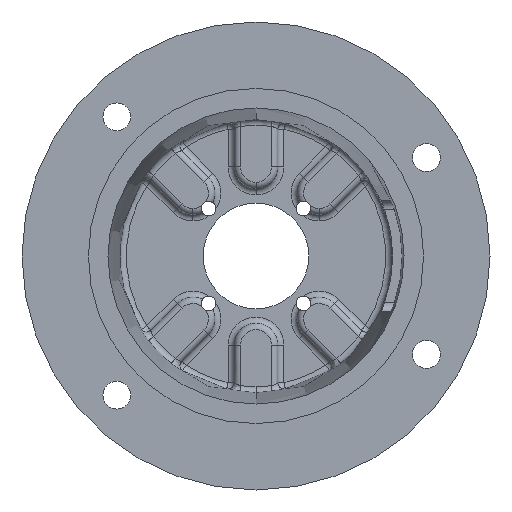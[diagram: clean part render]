
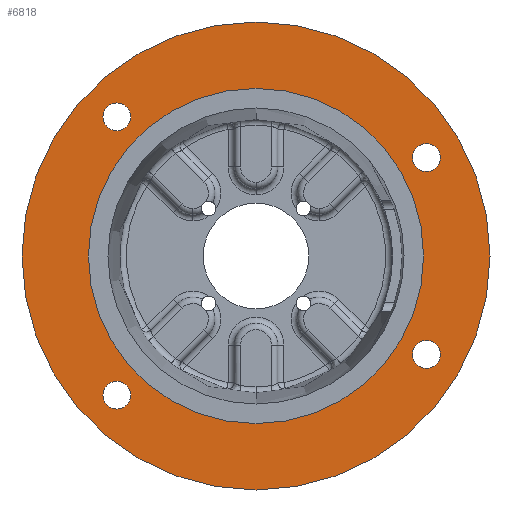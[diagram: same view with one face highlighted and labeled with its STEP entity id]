
A CAD part, front view. The second image highlights one B-rep face of the part: STEP entity #6818.
In plain terms, the highlighted planar face has unit normal (0, -1, 0).
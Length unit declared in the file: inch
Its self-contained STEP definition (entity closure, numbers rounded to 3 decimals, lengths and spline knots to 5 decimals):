
#16 = ORIENTED_EDGE ( 'NONE', *, *, #4268, .T. ) ;
#98 = CIRCLE ( 'NONE', #5835, 5.5 ) ;
#117 = DIRECTION ( 'NONE',  ( 0., 1., 0. ) ) ;
#229 = ORIENTED_EDGE ( 'NONE', *, *, #9564, .F. ) ;
#280 = FACE_BOUND ( 'NONE', #12777, .T. ) ;
#373 = VERTEX_POINT ( 'NONE', #9846 ) ;
#430 = CARTESIAN_POINT ( 'NONE',  ( 0., 0., 5.5 ) ) ;
#488 = DIRECTION ( 'NONE',  ( 0., -1., 0. ) ) ;
#655 = DIRECTION ( 'NONE',  ( 0., 0., -1. ) ) ;
#686 = DIRECTION ( 'NONE',  ( 0., -1., 0. ) ) ;
#746 = VERTEX_POINT ( 'NONE', #11726 ) ;
#747 = CARTESIAN_POINT ( 'NONE',  ( 0., 0., 0. ) ) ;
#776 = DIRECTION ( 'NONE',  ( 0., -1., 0. ) ) ;
#1014 = DIRECTION ( 'NONE',  ( 0., -1., 0. ) ) ;
#1184 = PLANE ( 'NONE',  #7568 ) ;
#1383 = EDGE_LOOP ( 'NONE', ( #9570, #10259 ) ) ;
#1423 = EDGE_CURVE ( 'NONE', #11793, #373, #3653, .T. ) ;
#1506 = EDGE_CURVE ( 'NONE', #12222, #6500, #98, .T. ) ;
#1632 = ORIENTED_EDGE ( 'NONE', *, *, #12022, .F. ) ;
#1690 = AXIS2_PLACEMENT_3D ( 'NONE', #6071, #13605, #7173 ) ;
#1966 = EDGE_CURVE ( 'NONE', #9220, #3469, #13560, .T. ) ;
#1979 = CIRCLE ( 'NONE', #12564, 0.32812 ) ;
#2503 = CARTESIAN_POINT ( 'NONE',  ( 4.00537, 0., -1.98438 ) ) ;
#2754 = ORIENTED_EDGE ( 'NONE', *, *, #1966, .F. ) ;
#2947 = CARTESIAN_POINT ( 'NONE',  ( -3.27037, 0., 3.27037 ) ) ;
#3005 = AXIS2_PLACEMENT_3D ( 'NONE', #6123, #6028, #6061 ) ;
#3160 = FACE_BOUND ( 'NONE', #4529, .T. ) ;
#3319 = EDGE_CURVE ( 'NONE', #3469, #9220, #6286, .T. ) ;
#3419 = CIRCLE ( 'NONE', #12789, 0.32812 ) ;
#3469 = VERTEX_POINT ( 'NONE', #7445 ) ;
#3546 = EDGE_LOOP ( 'NONE', ( #5942, #229 ) ) ;
#3653 = CIRCLE ( 'NONE', #3005, 0.32812 ) ;
#3745 = EDGE_CURVE ( 'NONE', #5570, #9789, #9273, .T. ) ;
#4002 = DIRECTION ( 'NONE',  ( 0., 0., -1. ) ) ;
#4086 = DIRECTION ( 'NONE',  ( 0., 0., -1. ) ) ;
#4106 = DIRECTION ( 'NONE',  ( 0., -1., 0. ) ) ;
#4119 = CARTESIAN_POINT ( 'NONE',  ( 4.00537, 0., -2.3125 ) ) ;
#4268 = EDGE_CURVE ( 'NONE', #6500, #12222, #6884, .T. ) ;
#4391 = CARTESIAN_POINT ( 'NONE',  ( -5.5, 0., 0. ) ) ;
#4529 = EDGE_LOOP ( 'NONE', ( #1632, #7348 ) ) ;
#4620 = AXIS2_PLACEMENT_3D ( 'NONE', #7933, #9942, #9946 ) ;
#5288 = ORIENTED_EDGE ( 'NONE', *, *, #3745, .F. ) ;
#5297 = CIRCLE ( 'NONE', #1690, 0.32812 ) ;
#5570 = VERTEX_POINT ( 'NONE', #6674 ) ;
#5586 = CARTESIAN_POINT ( 'NONE',  ( 4.00537, 0., 1.98437 ) ) ;
#5835 = AXIS2_PLACEMENT_3D ( 'NONE', #8991, #8972, #9017 ) ;
#5942 = ORIENTED_EDGE ( 'NONE', *, *, #7521, .F. ) ;
#5958 = VERTEX_POINT ( 'NONE', #9838 ) ;
#5982 = FACE_BOUND ( 'NONE', #3546, .T. ) ;
#6028 = DIRECTION ( 'NONE',  ( 0., -1., 0. ) ) ;
#6061 = DIRECTION ( 'NONE',  ( 0., 0., -1. ) ) ;
#6071 = CARTESIAN_POINT ( 'NONE',  ( 4.00537, 0., -2.3125 ) ) ;
#6123 = CARTESIAN_POINT ( 'NONE',  ( 4.00537, 0., 2.3125 ) ) ;
#6256 = CIRCLE ( 'NONE', #11343, 0.32812 ) ;
#6268 = VERTEX_POINT ( 'NONE', #11441 ) ;
#6286 = CIRCLE ( 'NONE', #4620, 3.9385 ) ;
#6331 = FACE_BOUND ( 'NONE', #9547, .T. ) ;
#6403 = DIRECTION ( 'NONE',  ( 0., -1., 0. ) ) ;
#6500 = VERTEX_POINT ( 'NONE', #12093 ) ;
#6558 = CARTESIAN_POINT ( 'NONE',  ( 0., 0., 0. ) ) ;
#6674 = CARTESIAN_POINT ( 'NONE',  ( 4.00537, 0., -2.64063 ) ) ;
#6801 = DIRECTION ( 'NONE',  ( 0., 0., -1. ) ) ;
#6818 = ADVANCED_FACE ( 'NONE', ( #8834, #6331, #5982, #3160, #280, #11367 ), #1184, .F. ) ;
#6884 = CIRCLE ( 'NONE', #7421, 5.5 ) ;
#6904 = CARTESIAN_POINT ( 'NONE',  ( -3.27037, 0., -3.27037 ) ) ;
#7173 = DIRECTION ( 'NONE',  ( 0., 0., -1. ) ) ;
#7203 = CARTESIAN_POINT ( 'NONE',  ( -3.27037, 0., 3.27037 ) ) ;
#7348 = ORIENTED_EDGE ( 'NONE', *, *, #12038, .F. ) ;
#7421 = AXIS2_PLACEMENT_3D ( 'NONE', #6558, #13909, #6801 ) ;
#7422 = CARTESIAN_POINT ( 'NONE',  ( 4.00537, 0., 2.3125 ) ) ;
#7445 = CARTESIAN_POINT ( 'NONE',  ( 0., 0., -3.9385 ) ) ;
#7521 = EDGE_CURVE ( 'NONE', #746, #12861, #12028, .T. ) ;
#7568 = AXIS2_PLACEMENT_3D ( 'NONE', #4391, #117, #7636 ) ;
#7636 = DIRECTION ( 'NONE',  ( 0., 0., 1. ) ) ;
#7780 = EDGE_CURVE ( 'NONE', #373, #11793, #10314, .T. ) ;
#7933 = CARTESIAN_POINT ( 'NONE',  ( 0., 0., 0. ) ) ;
#7996 = DIRECTION ( 'NONE',  ( 0., 0., -1. ) ) ;
#8262 = DIRECTION ( 'NONE',  ( 0., 0., -1. ) ) ;
#8431 = EDGE_CURVE ( 'NONE', #9789, #5570, #5297, .T. ) ;
#8498 = DIRECTION ( 'NONE',  ( 0., 0., -1. ) ) ;
#8834 = FACE_BOUND ( 'NONE', #1383, .T. ) ;
#8910 = AXIS2_PLACEMENT_3D ( 'NONE', #7422, #1014, #8498 ) ;
#8972 = DIRECTION ( 'NONE',  ( 0., -1., 0. ) ) ;
#8991 = CARTESIAN_POINT ( 'NONE',  ( 0., 0., 0. ) ) ;
#9017 = DIRECTION ( 'NONE',  ( 0., 0., -1. ) ) ;
#9220 = VERTEX_POINT ( 'NONE', #12143 ) ;
#9273 = CIRCLE ( 'NONE', #13734, 0.32812 ) ;
#9338 = CARTESIAN_POINT ( 'NONE',  ( -3.27037, 0., -2.94224 ) ) ;
#9547 = EDGE_LOOP ( 'NONE', ( #5288, #11310 ) ) ;
#9564 = EDGE_CURVE ( 'NONE', #12861, #746, #1979, .T. ) ;
#9570 = ORIENTED_EDGE ( 'NONE', *, *, #1423, .F. ) ;
#9789 = VERTEX_POINT ( 'NONE', #2503 ) ;
#9838 = CARTESIAN_POINT ( 'NONE',  ( -3.27037, 0., 3.59849 ) ) ;
#9846 = CARTESIAN_POINT ( 'NONE',  ( 4.00537, 0., 2.64062 ) ) ;
#9942 = DIRECTION ( 'NONE',  ( 0., -1., 0. ) ) ;
#9946 = DIRECTION ( 'NONE',  ( 0., 0., -1. ) ) ;
#10124 = ORIENTED_EDGE ( 'NONE', *, *, #3319, .F. ) ;
#10259 = ORIENTED_EDGE ( 'NONE', *, *, #7780, .F. ) ;
#10314 = CIRCLE ( 'NONE', #8910, 0.32812 ) ;
#10398 = DIRECTION ( 'NONE',  ( 0., -1., 0. ) ) ;
#10823 = ORIENTED_EDGE ( 'NONE', *, *, #1506, .T. ) ;
#11310 = ORIENTED_EDGE ( 'NONE', *, *, #8431, .F. ) ;
#11343 = AXIS2_PLACEMENT_3D ( 'NONE', #7203, #776, #8262 ) ;
#11367 = FACE_OUTER_BOUND ( 'NONE', #12280, .T. ) ;
#11441 = CARTESIAN_POINT ( 'NONE',  ( -3.27037, 0., 2.94224 ) ) ;
#11726 = CARTESIAN_POINT ( 'NONE',  ( -3.27037, 0., -3.59849 ) ) ;
#11793 = VERTEX_POINT ( 'NONE', #5586 ) ;
#12022 = EDGE_CURVE ( 'NONE', #6268, #5958, #6256, .T. ) ;
#12028 = CIRCLE ( 'NONE', #12793, 0.32812 ) ;
#12038 = EDGE_CURVE ( 'NONE', #5958, #6268, #3419, .T. ) ;
#12093 = CARTESIAN_POINT ( 'NONE',  ( 0., 0., -5.5 ) ) ;
#12143 = CARTESIAN_POINT ( 'NONE',  ( 0., 0., 3.9385 ) ) ;
#12222 = VERTEX_POINT ( 'NONE', #430 ) ;
#12280 = EDGE_LOOP ( 'NONE', ( #16, #10823 ) ) ;
#12564 = AXIS2_PLACEMENT_3D ( 'NONE', #12852, #6403, #13928 ) ;
#12777 = EDGE_LOOP ( 'NONE', ( #10124, #2754 ) ) ;
#12789 = AXIS2_PLACEMENT_3D ( 'NONE', #2947, #10398, #4002 ) ;
#12793 = AXIS2_PLACEMENT_3D ( 'NONE', #6904, #488, #7996 ) ;
#12852 = CARTESIAN_POINT ( 'NONE',  ( -3.27037, 0., -3.27037 ) ) ;
#12861 = VERTEX_POINT ( 'NONE', #9338 ) ;
#13445 = AXIS2_PLACEMENT_3D ( 'NONE', #747, #686, #655 ) ;
#13560 = CIRCLE ( 'NONE', #13445, 3.9385 ) ;
#13605 = DIRECTION ( 'NONE',  ( 0., -1., 0. ) ) ;
#13734 = AXIS2_PLACEMENT_3D ( 'NONE', #4119, #4106, #4086 ) ;
#13909 = DIRECTION ( 'NONE',  ( 0., -1., 0. ) ) ;
#13928 = DIRECTION ( 'NONE',  ( 0., 0., -1. ) ) ;
